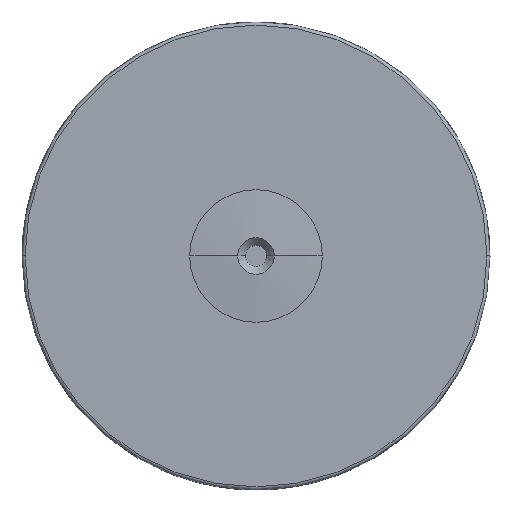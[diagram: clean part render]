
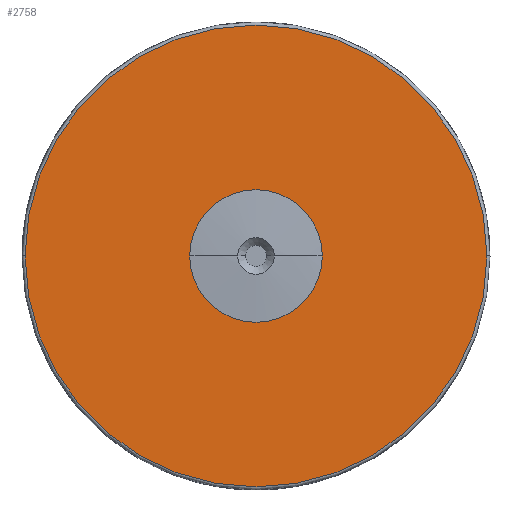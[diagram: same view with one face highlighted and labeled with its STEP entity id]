
A CAD part, top view. The second image highlights one B-rep face of the part: STEP entity #2758.
In plain terms, the highlighted planar face has unit normal (0, 0, 1).
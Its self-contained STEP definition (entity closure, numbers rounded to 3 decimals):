
#21 = DIRECTION ( 'NONE',  ( 1., 0., 0. ) ) ;
#100 = VERTEX_POINT ( 'NONE', #4470 ) ;
#214 = ORIENTED_EDGE ( 'NONE', *, *, #2309, .T. ) ;
#462 = CARTESIAN_POINT ( 'NONE',  ( 0., 0., 8.509 ) ) ;
#797 = CARTESIAN_POINT ( 'NONE',  ( 0., 0., 8.509 ) ) ;
#847 = AXIS2_PLACEMENT_3D ( 'NONE', #4853, #4868, #1977 ) ;
#878 = FACE_OUTER_BOUND ( 'NONE', #4849, .T. ) ;
#879 = ORIENTED_EDGE ( 'NONE', *, *, #4629, .T. ) ;
#934 = EDGE_LOOP ( 'NONE', ( #4559, #1855 ) ) ;
#1015 = DIRECTION ( 'NONE',  ( 0., 0., 1. ) ) ;
#1187 = CARTESIAN_POINT ( 'NONE',  ( 0., 0., 8.509 ) ) ;
#1294 = CARTESIAN_POINT ( 'NONE',  ( 10.795, 0., 8.509 ) ) ;
#1335 = CARTESIAN_POINT ( 'NONE',  ( 37.592, 0., 8.509 ) ) ;
#1576 = CIRCLE ( 'NONE', #2996, 10.795 ) ;
#1614 = DIRECTION ( 'NONE',  ( 1., 0., 0. ) ) ;
#1791 = VERTEX_POINT ( 'NONE', #1294 ) ;
#1855 = ORIENTED_EDGE ( 'NONE', *, *, #4935, .F. ) ;
#1977 = DIRECTION ( 'NONE',  ( 1., 0., 0. ) ) ;
#2006 = VERTEX_POINT ( 'NONE', #1335 ) ;
#2309 = EDGE_CURVE ( 'NONE', #2006, #5037, #3988, .T. ) ;
#2414 = FACE_BOUND ( 'NONE', #934, .T. ) ;
#2533 = CARTESIAN_POINT ( 'NONE',  ( -37.592, 0., 8.509 ) ) ;
#2594 = CIRCLE ( 'NONE', #3581, 37.592 ) ;
#2758 = ADVANCED_FACE ( 'NONE', ( #878, #2414 ), #4219, .T. ) ;
#2996 = AXIS2_PLACEMENT_3D ( 'NONE', #1187, #4417, #4475 ) ;
#3581 = AXIS2_PLACEMENT_3D ( 'NONE', #797, #3664, #1614 ) ;
#3664 = DIRECTION ( 'NONE',  ( 0., 0., 1. ) ) ;
#3750 = DIRECTION ( 'NONE',  ( 0., 0., 1. ) ) ;
#3966 = AXIS2_PLACEMENT_3D ( 'NONE', #5061, #1015, #4667 ) ;
#3988 = CIRCLE ( 'NONE', #847, 37.592 ) ;
#4219 = PLANE ( 'NONE',  #3966 ) ;
#4417 = DIRECTION ( 'NONE',  ( 0., 0., 1. ) ) ;
#4470 = CARTESIAN_POINT ( 'NONE',  ( -10.795, 0., 8.509 ) ) ;
#4475 = DIRECTION ( 'NONE',  ( 1., 0., 0. ) ) ;
#4559 = ORIENTED_EDGE ( 'NONE', *, *, #5065, .F. ) ;
#4629 = EDGE_CURVE ( 'NONE', #5037, #2006, #2594, .T. ) ;
#4667 = DIRECTION ( 'NONE',  ( 1., 0., 0. ) ) ;
#4849 = EDGE_LOOP ( 'NONE', ( #214, #879 ) ) ;
#4853 = CARTESIAN_POINT ( 'NONE',  ( 0., 0., 8.509 ) ) ;
#4868 = DIRECTION ( 'NONE',  ( 0., 0., 1. ) ) ;
#4935 = EDGE_CURVE ( 'NONE', #100, #1791, #1576, .T. ) ;
#5037 = VERTEX_POINT ( 'NONE', #2533 ) ;
#5061 = CARTESIAN_POINT ( 'NONE',  ( 0., 0., 8.509 ) ) ;
#5065 = EDGE_CURVE ( 'NONE', #1791, #100, #5276, .T. ) ;
#5079 = AXIS2_PLACEMENT_3D ( 'NONE', #462, #3750, #21 ) ;
#5276 = CIRCLE ( 'NONE', #5079, 10.795 ) ;
